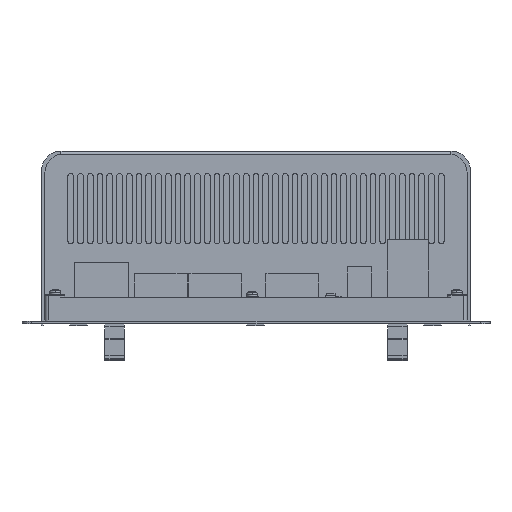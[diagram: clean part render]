
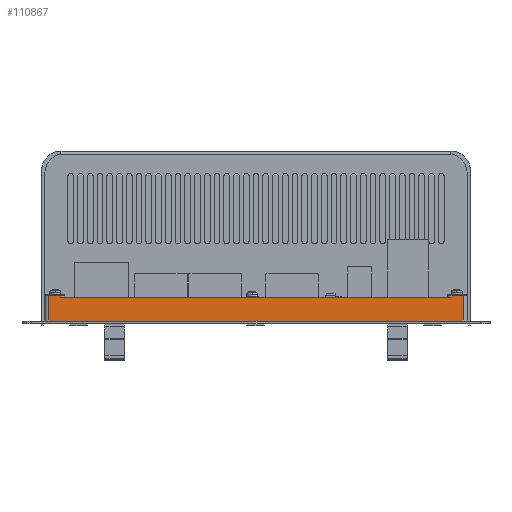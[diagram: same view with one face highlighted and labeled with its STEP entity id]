
A CAD part, front view. The second image highlights one B-rep face of the part: STEP entity #110867.
In plain terms, the highlighted planar face has unit normal (0, -1, 0).
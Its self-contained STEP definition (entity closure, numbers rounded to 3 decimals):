
#1840 = CARTESIAN_POINT ( 'NONE',  ( 111.293, -21., 1.5 ) ) ;
#3069 = ORIENTED_EDGE ( 'NONE', *, *, #7877, .T. ) ;
#3997 = CARTESIAN_POINT ( 'NONE',  ( 105., -21., 14.885 ) ) ;
#4255 = DIRECTION ( 'NONE',  ( 0., 0., 1. ) ) ;
#7804 = AXIS2_PLACEMENT_3D ( 'NONE', #95535, #37999, #105240 ) ;
#7877 = EDGE_CURVE ( 'NONE', #40341, #112868, #34847, .T. ) ;
#7929 = CARTESIAN_POINT ( 'NONE',  ( 111.293, -21., 14.635 ) ) ;
#8141 = EDGE_CURVE ( 'NONE', #24539, #29827, #29606, .T. ) ;
#8794 = DIRECTION ( 'NONE',  ( -1., 0., 0. ) ) ;
#9226 = CARTESIAN_POINT ( 'NONE',  ( 113.293, -21., 13.635 ) ) ;
#11359 = EDGE_CURVE ( 'NONE', #65252, #116729, #35421, .T. ) ;
#11819 = LINE ( 'NONE', #116847, #55969 ) ;
#12743 = ORIENTED_EDGE ( 'NONE', *, *, #78546, .T. ) ;
#13910 = VECTOR ( 'NONE', #8794, 1000. ) ;
#14464 = DIRECTION ( 'NONE',  ( -1., 0., 0. ) ) ;
#15829 = CARTESIAN_POINT ( 'NONE',  ( -95., -21., 14.635 ) ) ;
#16319 = VECTOR ( 'NONE', #72911, 1000. ) ;
#16961 = EDGE_CURVE ( 'NONE', #32131, #42106, #70333, .T. ) ;
#16981 = LINE ( 'NONE', #63658, #16319 ) ;
#17739 = CARTESIAN_POINT ( 'NONE',  ( -95., -21., 14.635 ) ) ;
#20261 = VECTOR ( 'NONE', #73687, 1000. ) ;
#20607 = EDGE_CURVE ( 'NONE', #30189, #42106, #11819, .T. ) ;
#21667 = DIRECTION ( 'NONE',  ( 0., 0., 1. ) ) ;
#21790 = CARTESIAN_POINT ( 'NONE',  ( -101.293, -21., 1.5 ) ) ;
#21820 = CARTESIAN_POINT ( 'NONE',  ( 111.293, -21., 14.635 ) ) ;
#22741 = VECTOR ( 'NONE', #14464, 1000. ) ;
#24098 = ORIENTED_EDGE ( 'NONE', *, *, #8141, .F. ) ;
#24539 = VERTEX_POINT ( 'NONE', #94012 ) ;
#25394 = VECTOR ( 'NONE', #21667, 1000. ) ;
#29606 = LINE ( 'NONE', #3997, #29868 ) ;
#29827 = VERTEX_POINT ( 'NONE', #44772 ) ;
#29868 = VECTOR ( 'NONE', #4255, 1000. ) ;
#30189 = VERTEX_POINT ( 'NONE', #21790 ) ;
#32131 = VERTEX_POINT ( 'NONE', #17739 ) ;
#34716 = VECTOR ( 'NONE', #124703, 1000. ) ;
#34734 = VECTOR ( 'NONE', #111905, 1000. ) ;
#34847 = LINE ( 'NONE', #21820, #25394 ) ;
#35421 = LINE ( 'NONE', #63830, #34716 ) ;
#35833 = ORIENTED_EDGE ( 'NONE', *, *, #37706, .F. ) ;
#37706 = EDGE_CURVE ( 'NONE', #40341, #30189, #16981, .T. ) ;
#37999 = DIRECTION ( 'NONE',  ( 0., -1., 0. ) ) ;
#40341 = VERTEX_POINT ( 'NONE', #1840 ) ;
#42106 = VERTEX_POINT ( 'NONE', #59738 ) ;
#44772 = CARTESIAN_POINT ( 'NONE',  ( 105., -21., 14.635 ) ) ;
#46031 = CARTESIAN_POINT ( 'NONE',  ( 113.293, -21., 14.635 ) ) ;
#46171 = DIRECTION ( 'NONE',  ( -1., 0., 0. ) ) ;
#49624 = ORIENTED_EDGE ( 'NONE', *, *, #125289, .T. ) ;
#54840 = ORIENTED_EDGE ( 'NONE', *, *, #20607, .F. ) ;
#55494 = VERTEX_POINT ( 'NONE', #113177 ) ;
#55969 = VECTOR ( 'NONE', #116997, 1000. ) ;
#59379 = CARTESIAN_POINT ( 'NONE',  ( 93.615, -21., 13.635 ) ) ;
#59738 = CARTESIAN_POINT ( 'NONE',  ( -101.293, -21., 14.635 ) ) ;
#63658 = CARTESIAN_POINT ( 'NONE',  ( 5., -21., 1.5 ) ) ;
#63830 = CARTESIAN_POINT ( 'NONE',  ( 113.293, -21., 13.635 ) ) ;
#65252 = VERTEX_POINT ( 'NONE', #59379 ) ;
#68703 = ORIENTED_EDGE ( 'NONE', *, *, #16961, .T. ) ;
#69372 = EDGE_LOOP ( 'NONE', ( #112387, #98029, #80751, #68703, #54840, #35833, #3069, #49624, #24098, #12743 ) ) ;
#70166 = VECTOR ( 'NONE', #46171, 1000. ) ;
#70333 = LINE ( 'NONE', #46031, #70166 ) ;
#72356 = CARTESIAN_POINT ( 'NONE',  ( 113.293, -21., 14.635 ) ) ;
#72911 = DIRECTION ( 'NONE',  ( -1., 0., 0. ) ) ;
#73687 = DIRECTION ( 'NONE',  ( 0., 0., -1. ) ) ;
#74099 = LINE ( 'NONE', #72356, #22741 ) ;
#75867 = PLANE ( 'NONE',  #7804 ) ;
#78546 = EDGE_CURVE ( 'NONE', #24539, #65252, #85843, .T. ) ;
#80598 = EDGE_CURVE ( 'NONE', #32131, #55494, #119656, .T. ) ;
#80751 = ORIENTED_EDGE ( 'NONE', *, *, #80598, .F. ) ;
#85843 = LINE ( 'NONE', #102120, #34734 ) ;
#87799 = LINE ( 'NONE', #9226, #13910 ) ;
#91087 = CARTESIAN_POINT ( 'NONE',  ( 72.545, -21., 13.635 ) ) ;
#94012 = CARTESIAN_POINT ( 'NONE',  ( 105., -21., 13.635 ) ) ;
#95535 = CARTESIAN_POINT ( 'NONE',  ( 113.293, -21., 14.635 ) ) ;
#98029 = ORIENTED_EDGE ( 'NONE', *, *, #115575, .T. ) ;
#102120 = CARTESIAN_POINT ( 'NONE',  ( 113.293, -21., 13.635 ) ) ;
#105240 = DIRECTION ( 'NONE',  ( 0., 0., -1. ) ) ;
#105749 = FACE_OUTER_BOUND ( 'NONE', #69372, .T. ) ;
#110867 = ADVANCED_FACE ( 'NONE', ( #105749 ), #75867, .T. ) ;
#111905 = DIRECTION ( 'NONE',  ( -1., 0., 0. ) ) ;
#112387 = ORIENTED_EDGE ( 'NONE', *, *, #11359, .T. ) ;
#112868 = VERTEX_POINT ( 'NONE', #7929 ) ;
#113177 = CARTESIAN_POINT ( 'NONE',  ( -95., -21., 13.635 ) ) ;
#115575 = EDGE_CURVE ( 'NONE', #116729, #55494, #87799, .T. ) ;
#116729 = VERTEX_POINT ( 'NONE', #91087 ) ;
#116847 = CARTESIAN_POINT ( 'NONE',  ( -101.293, -21., 14.385 ) ) ;
#116997 = DIRECTION ( 'NONE',  ( 0., 0., 1. ) ) ;
#119656 = LINE ( 'NONE', #15829, #20261 ) ;
#124703 = DIRECTION ( 'NONE',  ( -1., 0., 0. ) ) ;
#125289 = EDGE_CURVE ( 'NONE', #112868, #29827, #74099, .T. ) ;
